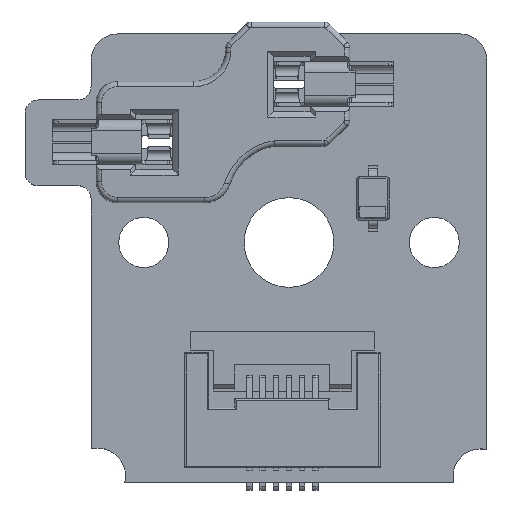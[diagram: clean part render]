
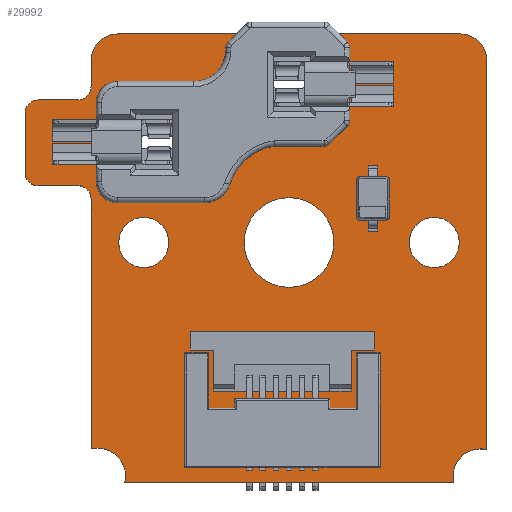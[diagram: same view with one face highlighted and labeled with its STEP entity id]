
A CAD part, top view. The second image highlights one B-rep face of the part: STEP entity #29992.
In plain terms, the highlighted planar face has unit normal (0, 0, 1).
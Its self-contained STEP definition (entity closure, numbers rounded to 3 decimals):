
#29662 = VERTEX_POINT('',#29663);
#29663 = CARTESIAN_POINT('',(146.75,-97.5,1.51));
#29669 = EDGE_CURVE('',#29662,#29670,#29672,.T.);
#29670 = VERTEX_POINT('',#29671);
#29671 = CARTESIAN_POINT('',(147.,-97.75,1.51));
#29672 = CIRCLE('',#29673,0.25);
#29673 = AXIS2_PLACEMENT_3D('',#29674,#29675,#29676);
#29674 = CARTESIAN_POINT('',(146.75,-97.75,1.51));
#29675 = DIRECTION('',(0.,0.,-1.));
#29676 = DIRECTION('',(0.,1.,0.));
#29704 = VERTEX_POINT('',#29705);
#29705 = CARTESIAN_POINT('',(142.,-97.5,1.51));
#29711 = EDGE_CURVE('',#29704,#29662,#29712,.T.);
#29712 = LINE('',#29713,#29714);
#29713 = CARTESIAN_POINT('',(142.,-97.5,1.51));
#29714 = VECTOR('',#29715,1.);
#29715 = DIRECTION('',(1.,0.,0.));
#29733 = EDGE_CURVE('',#29670,#29734,#29736,.T.);
#29734 = VERTEX_POINT('',#29735);
#29735 = CARTESIAN_POINT('',(147.,-99.5,1.51));
#29736 = LINE('',#29737,#29738);
#29737 = CARTESIAN_POINT('',(147.,-97.75,1.51));
#29738 = VECTOR('',#29739,1.);
#29739 = DIRECTION('',(0.,-1.,0.));
#29992 = ADVANCED_FACE('',(#29993,#30176,#30187,#30198,#30209),#30220,
  .T.);
#29993 = FACE_BOUND('',#29994,.T.);
#29994 = EDGE_LOOP('',(#29995,#29996,#29997,#30006,#30014,#30023,#30031,
    #30040,#30048,#30057,#30065,#30074,#30082,#30091,#30099,#30108,
    #30116,#30125,#30133,#30142,#30150,#30159,#30168,#30175));
#29995 = ORIENTED_EDGE('',*,*,#29669,.F.);
#29996 = ORIENTED_EDGE('',*,*,#29711,.F.);
#29997 = ORIENTED_EDGE('',*,*,#29998,.F.);
#29998 = EDGE_CURVE('',#29999,#29704,#30001,.T.);
#29999 = VERTEX_POINT('',#30000);
#30000 = CARTESIAN_POINT('',(141.,-98.5,1.51));
#30001 = CIRCLE('',#30002,1.);
#30002 = AXIS2_PLACEMENT_3D('',#30003,#30004,#30005);
#30003 = CARTESIAN_POINT('',(142.,-98.5,1.51));
#30004 = DIRECTION('',(0.,0.,-1.));
#30005 = DIRECTION('',(-1.,0.,-0.));
#30006 = ORIENTED_EDGE('',*,*,#30007,.F.);
#30007 = EDGE_CURVE('',#30008,#29999,#30010,.T.);
#30008 = VERTEX_POINT('',#30009);
#30009 = CARTESIAN_POINT('',(141.,-99.5,1.51));
#30010 = LINE('',#30011,#30012);
#30011 = CARTESIAN_POINT('',(141.,-99.5,1.51));
#30012 = VECTOR('',#30013,1.);
#30013 = DIRECTION('',(0.,1.,0.));
#30014 = ORIENTED_EDGE('',*,*,#30015,.F.);
#30015 = EDGE_CURVE('',#30016,#30008,#30018,.T.);
#30016 = VERTEX_POINT('',#30017);
#30017 = CARTESIAN_POINT('',(140.5,-100.,1.51));
#30018 = CIRCLE('',#30019,0.5);
#30019 = AXIS2_PLACEMENT_3D('',#30020,#30021,#30022);
#30020 = CARTESIAN_POINT('',(140.5,-99.5,1.51));
#30021 = DIRECTION('',(0.,0.,1.));
#30022 = DIRECTION('',(0.,-1.,0.));
#30023 = ORIENTED_EDGE('',*,*,#30024,.F.);
#30024 = EDGE_CURVE('',#30025,#30016,#30027,.T.);
#30025 = VERTEX_POINT('',#30026);
#30026 = CARTESIAN_POINT('',(139.,-100.,1.51));
#30027 = LINE('',#30028,#30029);
#30028 = CARTESIAN_POINT('',(139.,-100.,1.51));
#30029 = VECTOR('',#30030,1.);
#30030 = DIRECTION('',(1.,0.,0.));
#30031 = ORIENTED_EDGE('',*,*,#30032,.F.);
#30032 = EDGE_CURVE('',#30033,#30025,#30035,.T.);
#30033 = VERTEX_POINT('',#30034);
#30034 = CARTESIAN_POINT('',(138.5,-100.5,1.51));
#30035 = CIRCLE('',#30036,0.5);
#30036 = AXIS2_PLACEMENT_3D('',#30037,#30038,#30039);
#30037 = CARTESIAN_POINT('',(139.,-100.5,1.51));
#30038 = DIRECTION('',(0.,0.,-1.));
#30039 = DIRECTION('',(-1.,0.,0.));
#30040 = ORIENTED_EDGE('',*,*,#30041,.F.);
#30041 = EDGE_CURVE('',#30042,#30033,#30044,.T.);
#30042 = VERTEX_POINT('',#30043);
#30043 = CARTESIAN_POINT('',(138.5,-102.75,1.51));
#30044 = LINE('',#30045,#30046);
#30045 = CARTESIAN_POINT('',(138.5,-102.75,1.51));
#30046 = VECTOR('',#30047,1.);
#30047 = DIRECTION('',(0.,1.,0.));
#30048 = ORIENTED_EDGE('',*,*,#30049,.F.);
#30049 = EDGE_CURVE('',#30050,#30042,#30052,.T.);
#30050 = VERTEX_POINT('',#30051);
#30051 = CARTESIAN_POINT('',(139.,-103.25,1.51));
#30052 = CIRCLE('',#30053,0.5);
#30053 = AXIS2_PLACEMENT_3D('',#30054,#30055,#30056);
#30054 = CARTESIAN_POINT('',(139.,-102.75,1.51));
#30055 = DIRECTION('',(0.,0.,-1.));
#30056 = DIRECTION('',(0.,-1.,-0.));
#30057 = ORIENTED_EDGE('',*,*,#30058,.F.);
#30058 = EDGE_CURVE('',#30059,#30050,#30061,.T.);
#30059 = VERTEX_POINT('',#30060);
#30060 = CARTESIAN_POINT('',(140.5,-103.25,1.51));
#30061 = LINE('',#30062,#30063);
#30062 = CARTESIAN_POINT('',(140.5,-103.25,1.51));
#30063 = VECTOR('',#30064,1.);
#30064 = DIRECTION('',(-1.,0.,0.));
#30065 = ORIENTED_EDGE('',*,*,#30066,.F.);
#30066 = EDGE_CURVE('',#30067,#30059,#30069,.T.);
#30067 = VERTEX_POINT('',#30068);
#30068 = CARTESIAN_POINT('',(141.,-103.75,1.51));
#30069 = CIRCLE('',#30070,0.5);
#30070 = AXIS2_PLACEMENT_3D('',#30071,#30072,#30073);
#30071 = CARTESIAN_POINT('',(140.5,-103.75,1.51));
#30072 = DIRECTION('',(0.,0.,1.));
#30073 = DIRECTION('',(1.,0.,-0.));
#30074 = ORIENTED_EDGE('',*,*,#30075,.F.);
#30075 = EDGE_CURVE('',#30076,#30067,#30078,.T.);
#30076 = VERTEX_POINT('',#30077);
#30077 = CARTESIAN_POINT('',(141.,-113.219,1.51));
#30078 = LINE('',#30079,#30080);
#30079 = CARTESIAN_POINT('',(141.,-113.219,1.51));
#30080 = VECTOR('',#30081,1.);
#30081 = DIRECTION('',(0.,1.,0.));
#30082 = ORIENTED_EDGE('',*,*,#30083,.F.);
#30083 = EDGE_CURVE('',#30084,#30076,#30086,.T.);
#30084 = VERTEX_POINT('',#30085);
#30085 = CARTESIAN_POINT('',(142.279,-114.507,1.51));
#30086 = CIRCLE('',#30087,1.061);
#30087 = AXIS2_PLACEMENT_3D('',#30088,#30089,#30090);
#30088 = CARTESIAN_POINT('',(141.25,-114.25,1.51));
#30089 = DIRECTION('',(0.,0.,1.));
#30090 = DIRECTION('',(0.97,-0.243,0.));
#30091 = ORIENTED_EDGE('',*,*,#30092,.F.);
#30092 = EDGE_CURVE('',#30093,#30084,#30095,.T.);
#30093 = VERTEX_POINT('',#30094);
#30094 = CARTESIAN_POINT('',(154.75,-114.5,1.51));
#30095 = LINE('',#30096,#30097);
#30096 = CARTESIAN_POINT('',(154.75,-114.5,1.51));
#30097 = VECTOR('',#30098,1.);
#30098 = DIRECTION('',(-1.,-0.001,0.));
#30099 = ORIENTED_EDGE('',*,*,#30100,.F.);
#30100 = EDGE_CURVE('',#30101,#30093,#30103,.T.);
#30101 = VERTEX_POINT('',#30102);
#30102 = CARTESIAN_POINT('',(156.,-113.25,1.51));
#30103 = CIRCLE('',#30104,1.031);
#30104 = AXIS2_PLACEMENT_3D('',#30105,#30106,#30107);
#30105 = CARTESIAN_POINT('',(155.75,-114.25,1.51));
#30106 = DIRECTION('',(0.,0.,1.));
#30107 = DIRECTION('',(0.243,0.97,-0.));
#30108 = ORIENTED_EDGE('',*,*,#30109,.F.);
#30109 = EDGE_CURVE('',#30110,#30101,#30112,.T.);
#30110 = VERTEX_POINT('',#30111);
#30111 = CARTESIAN_POINT('',(156.,-98.5,1.51));
#30112 = LINE('',#30113,#30114);
#30113 = CARTESIAN_POINT('',(156.,-98.5,1.51));
#30114 = VECTOR('',#30115,1.);
#30115 = DIRECTION('',(0.,-1.,0.));
#30116 = ORIENTED_EDGE('',*,*,#30117,.F.);
#30117 = EDGE_CURVE('',#30118,#30110,#30120,.T.);
#30118 = VERTEX_POINT('',#30119);
#30119 = CARTESIAN_POINT('',(155.,-97.5,1.51));
#30120 = CIRCLE('',#30121,1.);
#30121 = AXIS2_PLACEMENT_3D('',#30122,#30123,#30124);
#30122 = CARTESIAN_POINT('',(155.,-98.5,1.51));
#30123 = DIRECTION('',(0.,0.,-1.));
#30124 = DIRECTION('',(0.,1.,0.));
#30125 = ORIENTED_EDGE('',*,*,#30126,.F.);
#30126 = EDGE_CURVE('',#30127,#30118,#30129,.T.);
#30127 = VERTEX_POINT('',#30128);
#30128 = CARTESIAN_POINT('',(150.25,-97.5,1.51));
#30129 = LINE('',#30130,#30131);
#30130 = CARTESIAN_POINT('',(150.25,-97.5,1.51));
#30131 = VECTOR('',#30132,1.);
#30132 = DIRECTION('',(1.,0.,0.));
#30133 = ORIENTED_EDGE('',*,*,#30134,.F.);
#30134 = EDGE_CURVE('',#30135,#30127,#30137,.T.);
#30135 = VERTEX_POINT('',#30136);
#30136 = CARTESIAN_POINT('',(150.,-97.75,1.51));
#30137 = CIRCLE('',#30138,0.25);
#30138 = AXIS2_PLACEMENT_3D('',#30139,#30140,#30141);
#30139 = CARTESIAN_POINT('',(150.25,-97.75,1.51));
#30140 = DIRECTION('',(0.,0.,-1.));
#30141 = DIRECTION('',(-1.,0.,-0.));
#30142 = ORIENTED_EDGE('',*,*,#30143,.F.);
#30143 = EDGE_CURVE('',#30144,#30135,#30146,.T.);
#30144 = VERTEX_POINT('',#30145);
#30145 = CARTESIAN_POINT('',(150.,-99.443,1.51));
#30146 = LINE('',#30147,#30148);
#30147 = CARTESIAN_POINT('',(150.,-99.5,1.51));
#30148 = VECTOR('',#30149,1.);
#30149 = DIRECTION('',(0.,1.,0.));
#30150 = ORIENTED_EDGE('',*,*,#30151,.T.);
#30151 = EDGE_CURVE('',#30144,#30152,#30154,.T.);
#30152 = VERTEX_POINT('',#30153);
#30153 = CARTESIAN_POINT('',(148.501,-101.,1.51));
#30154 = CIRCLE('',#30155,1.5);
#30155 = AXIS2_PLACEMENT_3D('',#30156,#30157,#30158);
#30156 = CARTESIAN_POINT('',(148.501,-99.5,1.51));
#30157 = DIRECTION('',(-0.,0.,-1.));
#30158 = DIRECTION('',(-0.,-1.,0.));
#30159 = ORIENTED_EDGE('',*,*,#30160,.F.);
#30160 = EDGE_CURVE('',#30161,#30152,#30163,.T.);
#30161 = VERTEX_POINT('',#30162);
#30162 = CARTESIAN_POINT('',(148.501,-101.,1.51));
#30163 = CIRCLE('',#30164,1.5);
#30164 = AXIS2_PLACEMENT_3D('',#30165,#30166,#30167);
#30165 = CARTESIAN_POINT('',(148.5,-99.5,1.51));
#30166 = DIRECTION('',(0.,0.,1.));
#30167 = DIRECTION('',(-1.,0.,-0.));
#30168 = ORIENTED_EDGE('',*,*,#30169,.F.);
#30169 = EDGE_CURVE('',#29734,#30161,#30170,.T.);
#30170 = CIRCLE('',#30171,1.5);
#30171 = AXIS2_PLACEMENT_3D('',#30172,#30173,#30174);
#30172 = CARTESIAN_POINT('',(148.5,-99.5,1.51));
#30173 = DIRECTION('',(0.,0.,1.));
#30174 = DIRECTION('',(-1.,0.,-0.));
#30175 = ORIENTED_EDGE('',*,*,#29733,.F.);
#30176 = FACE_BOUND('',#30177,.T.);
#30177 = EDGE_LOOP('',(#30178));
#30178 = ORIENTED_EDGE('',*,*,#30179,.T.);
#30179 = EDGE_CURVE('',#30180,#30180,#30182,.T.);
#30180 = VERTEX_POINT('',#30181);
#30181 = CARTESIAN_POINT('',(143.001,-106.35,1.51));
#30182 = CIRCLE('',#30183,0.95);
#30183 = AXIS2_PLACEMENT_3D('',#30184,#30185,#30186);
#30184 = CARTESIAN_POINT('',(143.001,-105.4,1.51));
#30185 = DIRECTION('',(-0.,0.,-1.));
#30186 = DIRECTION('',(-0.,-1.,0.));
#30187 = FACE_BOUND('',#30188,.T.);
#30188 = EDGE_LOOP('',(#30189));
#30189 = ORIENTED_EDGE('',*,*,#30190,.T.);
#30190 = EDGE_CURVE('',#30191,#30191,#30193,.T.);
#30191 = VERTEX_POINT('',#30192);
#30192 = CARTESIAN_POINT('',(148.501,-107.1,1.51));
#30193 = CIRCLE('',#30194,1.7);
#30194 = AXIS2_PLACEMENT_3D('',#30195,#30196,#30197);
#30195 = CARTESIAN_POINT('',(148.501,-105.4,1.51));
#30196 = DIRECTION('',(-0.,0.,-1.));
#30197 = DIRECTION('',(-0.,-1.,0.));
#30198 = FACE_BOUND('',#30199,.T.);
#30199 = EDGE_LOOP('',(#30200));
#30200 = ORIENTED_EDGE('',*,*,#30201,.T.);
#30201 = EDGE_CURVE('',#30202,#30202,#30204,.T.);
#30202 = VERTEX_POINT('',#30203);
#30203 = CARTESIAN_POINT('',(154.001,-106.35,1.51));
#30204 = CIRCLE('',#30205,0.95);
#30205 = AXIS2_PLACEMENT_3D('',#30206,#30207,#30208);
#30206 = CARTESIAN_POINT('',(154.001,-105.4,1.51));
#30207 = DIRECTION('',(-0.,0.,-1.));
#30208 = DIRECTION('',(-0.,-1.,0.));
#30209 = FACE_BOUND('',#30210,.T.);
#30210 = EDGE_LOOP('',(#30211));
#30211 = ORIENTED_EDGE('',*,*,#30212,.T.);
#30212 = EDGE_CURVE('',#30213,#30213,#30215,.T.);
#30213 = VERTEX_POINT('',#30214);
#30214 = CARTESIAN_POINT('',(143.501,-103.1,1.51));
#30215 = CIRCLE('',#30216,1.5);
#30216 = AXIS2_PLACEMENT_3D('',#30217,#30218,#30219);
#30217 = CARTESIAN_POINT('',(143.501,-101.6,1.51));
#30218 = DIRECTION('',(-0.,0.,-1.));
#30219 = DIRECTION('',(-0.,-1.,0.));
#30220 = PLANE('',#30221);
#30221 = AXIS2_PLACEMENT_3D('',#30222,#30223,#30224);
#30222 = CARTESIAN_POINT('',(0.,0.,1.51));
#30223 = DIRECTION('',(0.,0.,1.));
#30224 = DIRECTION('',(1.,0.,-0.));
